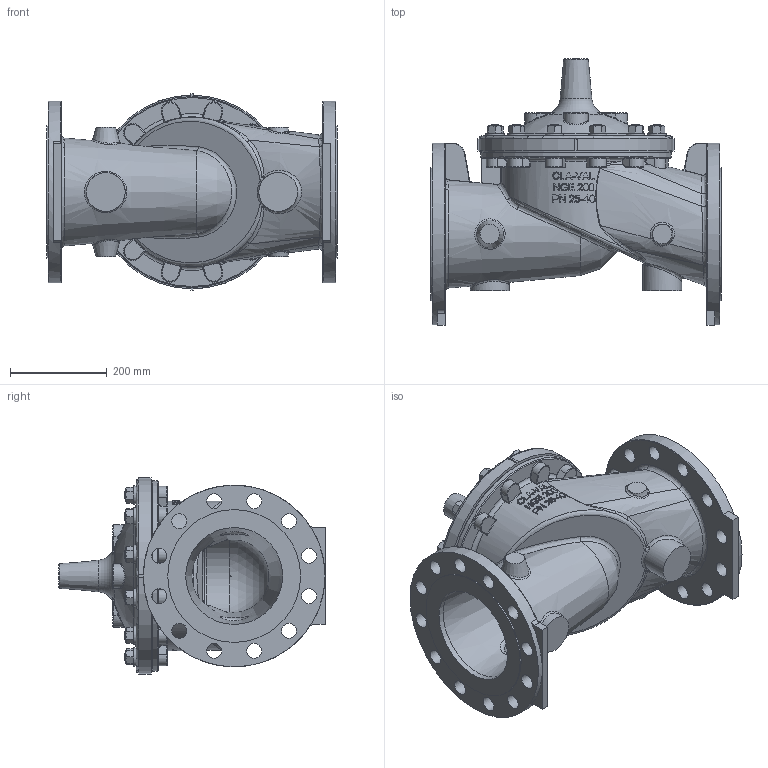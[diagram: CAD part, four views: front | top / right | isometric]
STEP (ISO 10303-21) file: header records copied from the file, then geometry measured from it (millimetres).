
FILE_DESCRIPTION(/* description */ (''),/* implementation_level */ '2;1');
FILE_NAME(/* name */ 'G:\Doc_Liberes\SymbolesCAD\Modeles_3D\FichierSTP\VanneDeBase\NGE200-40RF.stp',/* time_stamp */ '2023-08-18T11:13:27+02:00',/* author */ ('theo'),/* organization */ (''),/* preprocessor_version */ 'ST-DEVELOPER v18.1',/* originating_system */ 'Autodesk Inventor 2022',/* authorisation */ '');
FILE_SCHEMA (('AUTOMOTIVE_DESIGN { 1 0 10303 214 3 1 1 }'));
Products named in the file (1): nge200-40_Simplifier_1
Bounding box: 600 x 550.07 x 406 mm (x, y, z)
Volume: 15760844.9 mm3; surface area: 1942311.5 mm2
Topology: 2 solids, 2 shells, 1922 faces, 4901 edges, 3085 vertices
Faces by surface type: plane 746, cone 396, bspline 380, cylinder 272, torus 125, sphere 3
Full cylindrical faces by diameter (mm): 19.05 x24, 22 x12, 31 x24, 37.287 x12, 55.6 x1, 80 x2, 167.83 x1, 195 x1, 200 x2, 200.28 x1, 200.3 x1, 274 x2, 375 x2, 387.05 x1, 387.3 x1, 394 x1
Entity records: 73323 total; most frequent: CARTESIAN_POINT 29648, ORIENTED_EDGE 9796, DIRECTION 8275, EDGE_CURVE 4898, AXIS2_PLACEMENT_3D 3367, VERTEX_POINT 3085, EDGE_LOOP 2105, FACE_OUTER_BOUND 1922
